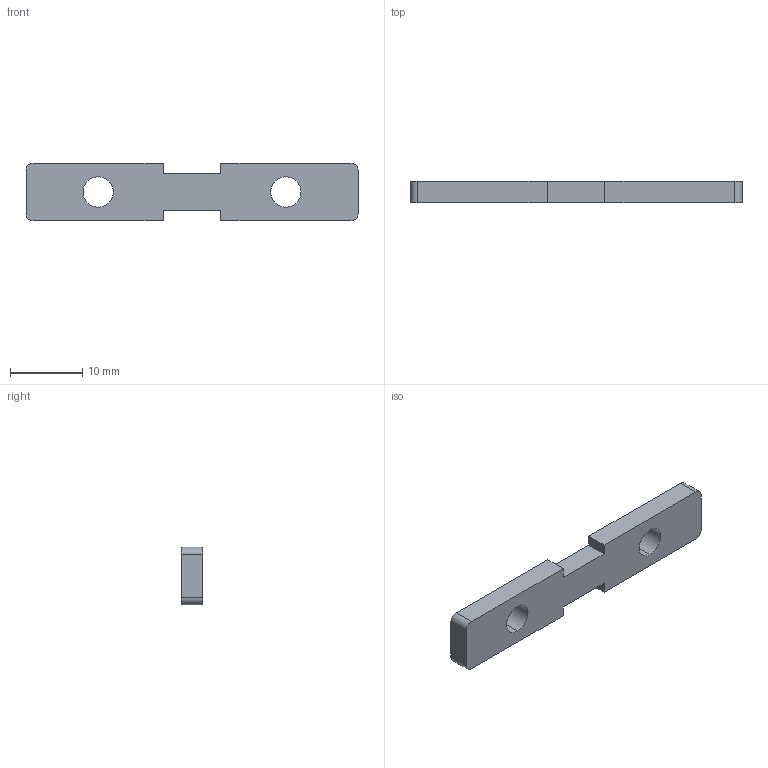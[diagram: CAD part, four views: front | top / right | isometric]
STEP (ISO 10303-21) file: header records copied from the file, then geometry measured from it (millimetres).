
FILE_DESCRIPTION (( 'STEP AP203' ), '1' );
FILE_NAME ('DLN-05.STEP', '2020-10-14T05:33:49', ( '' ), ( '' ), 'SwSTEP 2.0', 'SolidWorks 2017', '' );
FILE_SCHEMA (( 'CONFIG_CONTROL_DESIGN' ));
Length unit declared in the file: millimetre
Products named in the file (1): DLN-05
Bounding box: 46 x 3 x 8 mm (x, y, z)
Volume: 946.3 mm3; surface area: 1046.9 mm2
Topology: 1 solids, 1 shells, 22 faces, 60 edges, 40 vertices
Faces by surface type: plane 14, cylinder 8
Entity records: 785 total; most frequent: CARTESIAN_POINT 123, DIRECTION 122, ORIENTED_EDGE 120, EDGE_CURVE 60, VECTOR 44, LINE 44, VERTEX_POINT 40, AXIS2_PLACEMENT_3D 39
